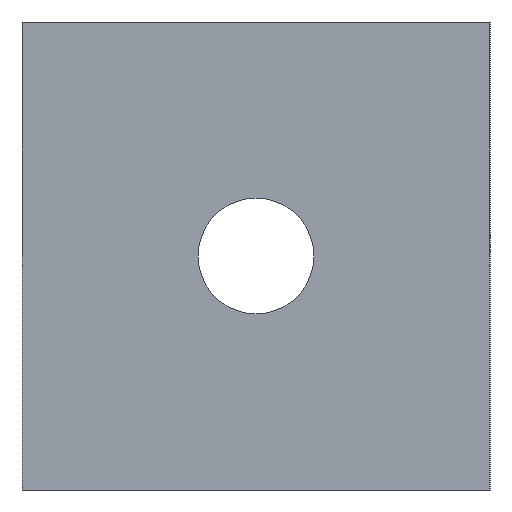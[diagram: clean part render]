
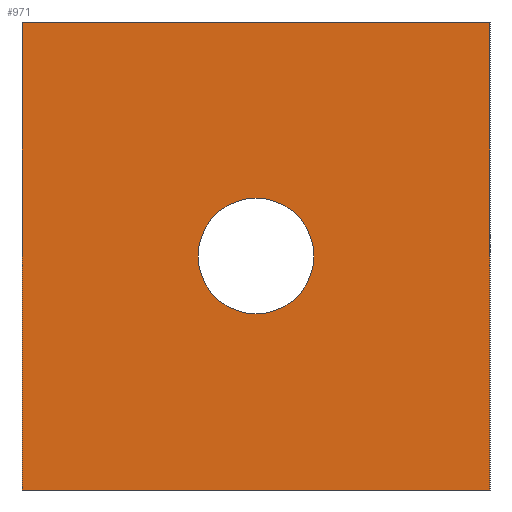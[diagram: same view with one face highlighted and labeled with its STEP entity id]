
A CAD part, left-side view. The second image highlights one B-rep face of the part: STEP entity #971.
In plain terms, the highlighted planar face has unit normal (-1, 0, 0).
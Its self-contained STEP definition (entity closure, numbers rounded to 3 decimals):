
#21 = ORIENTED_EDGE ( 'NONE', *, *, #178, .T. ) ;
#45 = CARTESIAN_POINT ( 'NONE',  ( -60., 0., 5.565 ) ) ;
#48 = EDGE_CURVE ( 'NONE', #155, #1035, #654, .T. ) ;
#77 = DIRECTION ( 'NONE',  ( 0., 0., 1. ) ) ;
#108 = CARTESIAN_POINT ( 'NONE',  ( -60., 0., 0. ) ) ;
#123 = LINE ( 'NONE', #288, #1251 ) ;
#128 = CARTESIAN_POINT ( 'NONE',  ( -60., -22.5, 22.5 ) ) ;
#140 = CARTESIAN_POINT ( 'NONE',  ( -60., -22.5, -22.5 ) ) ;
#153 = ORIENTED_EDGE ( 'NONE', *, *, #1373, .F. ) ;
#155 = VERTEX_POINT ( 'NONE', #470 ) ;
#178 = EDGE_CURVE ( 'NONE', #650, #239, #845, .T. ) ;
#193 = ORIENTED_EDGE ( 'NONE', *, *, #1231, .F. ) ;
#214 = FACE_OUTER_BOUND ( 'NONE', #940, .T. ) ;
#228 = DIRECTION ( 'NONE',  ( 0., 0., -1. ) ) ;
#239 = VERTEX_POINT ( 'NONE', #45 ) ;
#251 = CARTESIAN_POINT ( 'NONE',  ( -60., 22.5, -22.5 ) ) ;
#288 = CARTESIAN_POINT ( 'NONE',  ( -60., -22.5, -22.5 ) ) ;
#298 = DIRECTION ( 'NONE',  ( 0., 0., 1. ) ) ;
#337 = DIRECTION ( 'NONE',  ( 1., 0., 0. ) ) ;
#363 = EDGE_LOOP ( 'NONE', ( #21, #411 ) ) ;
#392 = DIRECTION ( 'NONE',  ( 0., 1., 0. ) ) ;
#411 = ORIENTED_EDGE ( 'NONE', *, *, #1155, .T. ) ;
#423 = AXIS2_PLACEMENT_3D ( 'NONE', #108, #877, #228 ) ;
#470 = CARTESIAN_POINT ( 'NONE',  ( -60., -22.5, 22.5 ) ) ;
#505 = LINE ( 'NONE', #1160, #754 ) ;
#507 = FACE_BOUND ( 'NONE', #363, .T. ) ;
#523 = AXIS2_PLACEMENT_3D ( 'NONE', #1403, #739, #77 ) ;
#550 = ORIENTED_EDGE ( 'NONE', *, *, #1083, .F. ) ;
#567 = CARTESIAN_POINT ( 'NONE',  ( -60., -22.5, 22.5 ) ) ;
#595 = VERTEX_POINT ( 'NONE', #789 ) ;
#623 = VECTOR ( 'NONE', #1253, 1000. ) ;
#650 = VERTEX_POINT ( 'NONE', #1131 ) ;
#654 = LINE ( 'NONE', #567, #623 ) ;
#669 = AXIS2_PLACEMENT_3D ( 'NONE', #991, #337, #1095 ) ;
#693 = ORIENTED_EDGE ( 'NONE', *, *, #48, .F. ) ;
#732 = PLANE ( 'NONE',  #523 ) ;
#739 = DIRECTION ( 'NONE',  ( -1., 0., 0. ) ) ;
#741 = VERTEX_POINT ( 'NONE', #251 ) ;
#754 = VECTOR ( 'NONE', #298, 1000. ) ;
#789 = CARTESIAN_POINT ( 'NONE',  ( -60., 22.5, 22.5 ) ) ;
#845 = CIRCLE ( 'NONE', #669, 5.565 ) ;
#877 = DIRECTION ( 'NONE',  ( 1., 0., 0. ) ) ;
#940 = EDGE_LOOP ( 'NONE', ( #550, #693, #153, #193 ) ) ;
#971 = ADVANCED_FACE ( 'NONE', ( #507, #214 ), #732, .T. ) ;
#991 = CARTESIAN_POINT ( 'NONE',  ( -60., 0., 0. ) ) ;
#1035 = VERTEX_POINT ( 'NONE', #140 ) ;
#1083 = EDGE_CURVE ( 'NONE', #1035, #741, #123, .T. ) ;
#1095 = DIRECTION ( 'NONE',  ( 0., 0., -1. ) ) ;
#1096 = VECTOR ( 'NONE', #1216, 1000. ) ;
#1122 = CIRCLE ( 'NONE', #423, 5.565 ) ;
#1131 = CARTESIAN_POINT ( 'NONE',  ( -60., 0., -5.565 ) ) ;
#1140 = LINE ( 'NONE', #128, #1096 ) ;
#1155 = EDGE_CURVE ( 'NONE', #239, #650, #1122, .T. ) ;
#1160 = CARTESIAN_POINT ( 'NONE',  ( -60., 22.5, 22.5 ) ) ;
#1216 = DIRECTION ( 'NONE',  ( 0., -1., 0. ) ) ;
#1231 = EDGE_CURVE ( 'NONE', #741, #595, #505, .T. ) ;
#1251 = VECTOR ( 'NONE', #392, 1000. ) ;
#1253 = DIRECTION ( 'NONE',  ( 0., 0., -1. ) ) ;
#1373 = EDGE_CURVE ( 'NONE', #595, #155, #1140, .T. ) ;
#1403 = CARTESIAN_POINT ( 'NONE',  ( -60., 22.5, -22.5 ) ) ;
